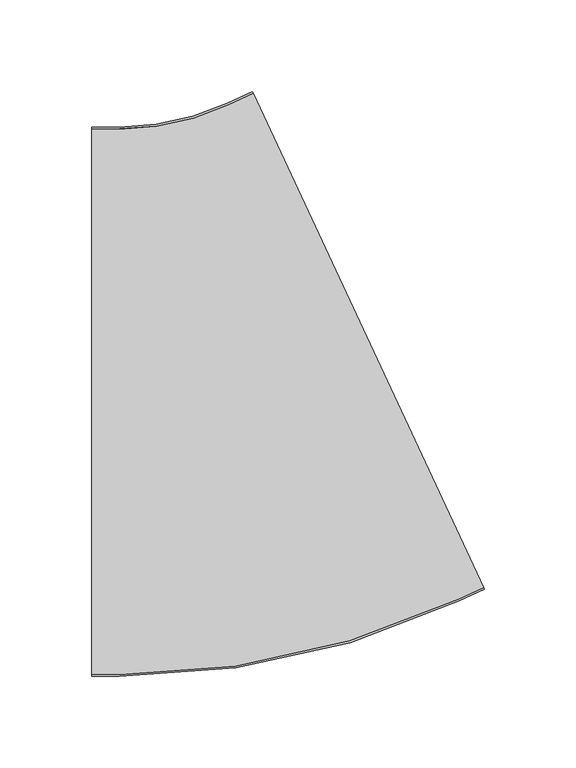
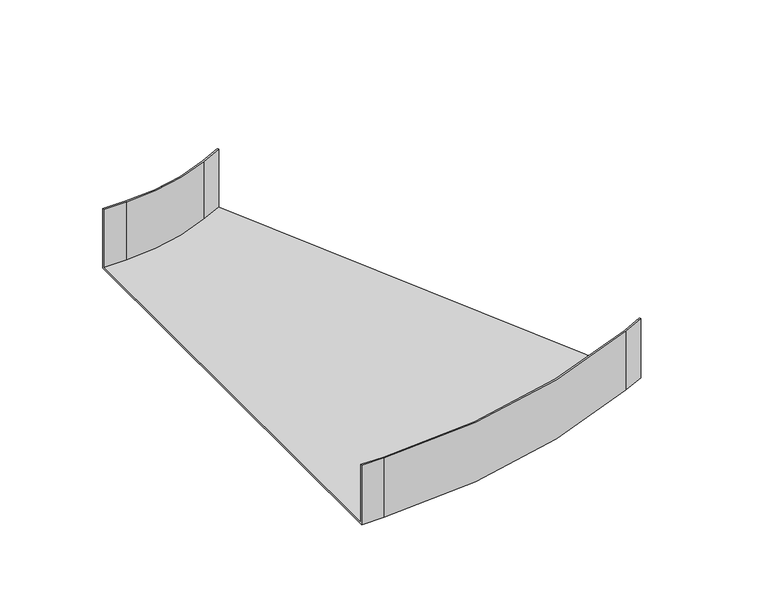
"""IFC4 building model written with IfcOpenShell, lengths in millimetres: cable carrier fitting geometry, BAKS_Adjustable bend : KKRPJ_H42."""

from ifc_helpers import new_model, si_unit, frame, origin, place, context, project, spatial, polyline, circle_curve, source, transform, mapped, element, save
from ifc_brep_helpers import plane_surface, cylinder_surface, revolved_surface, advanced_brep


def cable_carrier_fitting_19ef2403(model_context):
    return source(origin(), model_context, "Body", "AdvancedBrep", [
        advanced_brep(
        [(-79.2914522, -150.0, -21.0), (-79.2914522, -150.0, 21.0), (-79.2914522, -149.0, 21.0), (-79.2914522, -149.0, -20.0), (-79.2914522, 149.0, -20.0), (-79.2914522, 149.0, 21.0), (-79.2914522, 150.0, 21.0), (-79.2914522, 150.0, -21.0), (135.2551998, -102.4361524, -21.0), (8.4697213, 169.4561837, -21.0), (8.4697213, 169.4561837, 21.0), (8.8923395, 168.549876, 21.0), (8.8923395, 168.549876, -20.0), (134.8325815, -101.5298446, -20.0), (134.8325815, -101.5298446, 21.0), (135.2551998, -102.4361524, 21.0), (-64.2914522, -150.0, -21.0), (-64.2914522, -150.0, 21.0), (121.660583, -108.7754263, 21.0), (121.2379647, -107.8691185, 21.0), (-64.2914522, -149.0, 21.0), (-64.2914522, -149.0, -20.0), (121.2379647, -107.8691185, -20.0), (-4.7022773, 162.210602, -20.0), (-64.2914522, 149.0, -20.0), (-64.2914522, 149.0, 21.0), (-4.7022773, 162.210602, 21.0), (-5.1248955, 163.1169098, 21.0), (-64.2914522, 150.0, 21.0), (-64.2914522, 150.0, -21.0), (-5.1248955, 163.1169098, -21.0), (121.660583, -108.7754263, -21.0)],
        [
            (0, 1),
            (1, 2),
            (2, 3),
            (3, 4),
            (4, 5),
            (5, 6),
            (6, 7),
            (7, 0),
            (8, 9),
            (9, 10),
            (10, 11),
            (11, 12),
            (12, 13),
            (13, 14),
            (14, 15),
            (15, 8),
            (0, 16),
            (16, 17),
            (17, 1),
            (17, 18, circle_curve(frame((-64.2914522, 290.0, 21.0), z_axis=(0.0, 0.0, 1.0), x_axis=(0.0, -1.0, 0.0)), 440.0)),
            (18, 15),
            (14, 19),
            (19, 20, circle_curve(frame((-64.2914522, 290.0, 21.0), z_axis=(0.0, 0.0, -1.0), x_axis=(0.0, -1.0, 0.0)), 439.0)),
            (20, 2),
            (20, 21),
            (21, 3),
            (21, 22, circle_curve(frame((-64.2914522, 290.0, -20.0), z_axis=(0.0, 0.0, 1.0), x_axis=(0.0, -1.0, 0.0)), 439.0)),
            (22, 13),
            (12, 23),
            (23, 24, circle_curve(frame((-64.2914522, 290.0, -20.0), z_axis=(0.0, 0.0, -1.0), x_axis=(0.0, -1.0, 0.0)), 141.0)),
            (24, 4),
            (24, 25),
            (25, 5),
            (25, 26, circle_curve(frame((-64.2914522, 290.0, 21.0), z_axis=(0.0, 0.0, 1.0), x_axis=(0.0, -1.0, 0.0)), 141.0)),
            (26, 11),
            (10, 27),
            (27, 28, circle_curve(frame((-64.2914522, 290.0, 21.0), z_axis=(0.0, 0.0, -1.0), x_axis=(0.0, -1.0, 0.0)), 140.0)),
            (28, 6),
            (28, 29),
            (29, 7),
            (29, 30, circle_curve(frame((-64.2914522, 290.0, -21.0), z_axis=(0.0, 0.0, 1.0), x_axis=(0.0, -1.0, 0.0)), 140.0)),
            (30, 9),
            (8, 31),
            (31, 16, circle_curve(frame((-64.2914522, 290.0, -21.0), z_axis=(0.0, 0.0, -1.0), x_axis=(0.0, -1.0, 0.0)), 440.0)),
            (31, 18),
            (19, 22),
            (23, 26),
            (27, 30),
        ],
        [
            plane_surface(frame((-79.2914522, 0.0, 0.0), z_axis=(-1.0, 0.0, 0.0), x_axis=(0.0, 0.0, 1.0))),
            plane_surface(frame((71.8624605, 33.5100157, 0.0), z_axis=(0.9063077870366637, 0.4226182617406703, 0.0), x_axis=(0.0, 0.0, 1.0))),
            plane_surface(frame((-79.2914522, -150.0, -21.0), z_axis=(0.0, -1.0, 0.0), x_axis=(1.0, 0.0, 0.0))),
            plane_surface(frame((-79.2914522, -150.0, 21.0), z_axis=(0.0, 0.0, 1.0), x_axis=(1.0, 0.0, 0.0))),
            plane_surface(frame((-79.2914522, -149.0, 21.0), z_axis=(0.0, 1.0, 0.0), x_axis=(1.0, 0.0, 0.0))),
            plane_surface(frame((-79.2914522, -149.0, -20.0), z_axis=(0.0, 0.0, 1.0), x_axis=(1.0, 0.0, 0.0))),
            plane_surface(frame((-79.2914522, 149.0, -20.0), z_axis=(0.0, -1.0, 0.0), x_axis=(1.0, 0.0, 0.0))),
            plane_surface(frame((-79.2914522, 149.0, 21.0), z_axis=(0.0, 0.0, 1.0), x_axis=(1.0, 0.0, 0.0))),
            plane_surface(frame((-79.2914522, 150.0, 21.0), z_axis=(0.0, 1.0, 0.0), x_axis=(1.0, 0.0, 0.0))),
            plane_surface(frame((-79.2914522, 150.0, -21.0), z_axis=(0.0, 0.0, -1.0), x_axis=(1.0, 0.0, 0.0))),
            cylinder_surface(frame((-64.2914522, 290.0, 0.0), z_axis=(0.0, 0.0, 1.0), x_axis=(0.0, -1.0, 0.0)), 440.0),
            revolved_surface(polyline([(-64.2914522, -149.0, 21.0), (-64.2914522, -149.0, -20.0)]), (-64.2914522, 290.0, 0.0), (0.0, 0.0, 1.0)),
            cylinder_surface(frame((-64.2914522, 290.0, 0.0), z_axis=(0.0, 0.0, 1.0), x_axis=(0.0, -1.0, 0.0)), 141.0),
            revolved_surface(polyline([(-64.2914522, 150.0, 21.0), (-64.2914522, 150.0, -21.0)]), (-64.2914522, 290.0, 0.0), (0.0, 0.0, 1.0)),
            plane_surface(frame((121.660583, -108.7754263, -21.0), z_axis=(0.42261826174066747, -0.9063077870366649, 0.0), x_axis=(0.9063077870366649, 0.42261826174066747, 0.0))),
            plane_surface(frame((121.2379647, -107.8691185, 21.0), z_axis=(-0.42261826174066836, 0.9063077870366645, 0.0), x_axis=(0.9063077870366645, 0.42261826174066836, 0.0))),
            plane_surface(frame((-4.7022773, 162.210602, -20.0), z_axis=(0.4226182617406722, -0.9063077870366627, 0.0), x_axis=(0.9063077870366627, 0.4226182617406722, 0.0))),
            plane_surface(frame((-5.1248955, 163.1169098, 21.0), z_axis=(-0.4226182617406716, 0.906307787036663, 0.0), x_axis=(0.906307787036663, 0.4226182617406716, 0.0))),
        ],
        [
            (0, [[1, 2, 3, 4, 5, 6, 7, 8]]),
            (1, [[9, 10, 11, 12, 13, 14, 15, 16]]),
            (2, [[-1, 17, 18, 19]]),
            (3, [[-2, -19, 20, 21, -15, 22, 23, 24]]),
            (4, [[-3, -24, 25, 26]]),
            (5, [[-4, -26, 27, 28, -13, 29, 30, 31]]),
            (6, [[-5, -31, 32, 33]]),
            (7, [[-6, -33, 34, 35, -11, 36, 37, 38]]),
            (8, [[-7, -38, 39, 40]]),
            (9, [[-8, -40, 41, 42, -9, 43, 44, -17]]),
            (10, [[-20, -18, -44, 45]]),
            (11, [[-27, -25, -23, 46]]),
            (12, [[-34, -32, -30, 47]]),
            (13, [[-41, -39, -37, 48]]),
            (14, [[-45, -43, -16, -21]]),
            (15, [[-46, -22, -14, -28]]),
            (16, [[-47, -29, -12, -35]]),
            (17, [[-48, -36, -10, -42]]),
        ],
    ),
    ])


if __name__ == "__main__":
    model = new_model("IFC4")
    model_context = context("Model", 3, world=origin())
    ifc_project = project(units=[si_unit("LENGTHUNIT", "METRE", prefix="MILLI")], contexts=[model_context])
    site = spatial("IfcSite", under=ifc_project)
    building = spatial("IfcBuilding", under=site)
    placement = place(None, origin())
    cable_carrier_fitting_shape = cable_carrier_fitting_19ef2403(model_context)
    element("IfcCableCarrierFitting", 1, ObjectType="BAKS_Adjustable bend : KKRPJ_H42", at=placement, inside=building, context=model_context, shape_type="MappedRepresentation", body=[
        mapped(cable_carrier_fitting_shape, transform((0.0, 0.0, 0.0), x_axis=(1.0, 0.0, 0.0), y_axis=(0.0, 1.0, 0.0), z_axis=(0.0, 0.0, 1.0))),
    ])
    save(model, "model.ifc")
